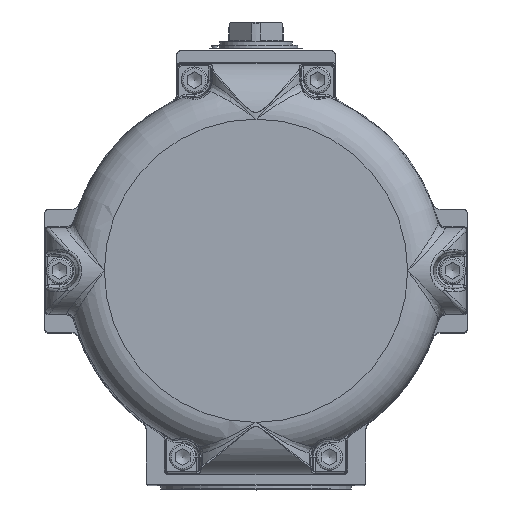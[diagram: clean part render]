
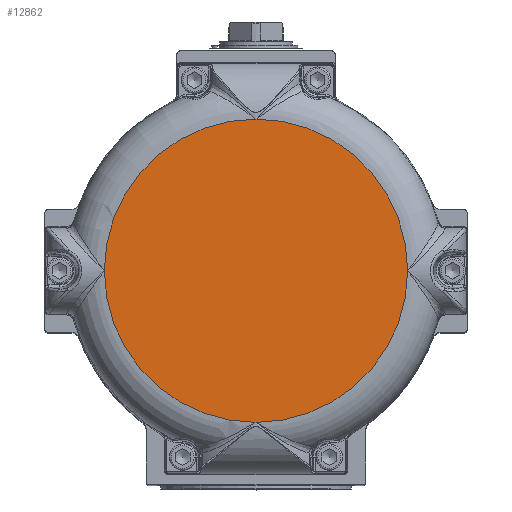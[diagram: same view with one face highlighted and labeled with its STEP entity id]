
A CAD part, top view. The second image highlights one B-rep face of the part: STEP entity #12862.
In plain terms, the highlighted planar face has unit normal (0, 0, 1).
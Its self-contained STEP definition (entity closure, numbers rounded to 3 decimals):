
#12665=CARTESIAN_POINT('',(0.,103.409,226.5));
#12666=VERTEX_POINT('',#12665);
#12689=CARTESIAN_POINT('',(103.409,0.,226.5));
#12690=VERTEX_POINT('',#12689);
#12691=CARTESIAN_POINT('',(0.,0.,226.5));
#12692=DIRECTION('',(0.0,0.0,1.0));
#12693=DIRECTION('',(-1.0,0.0,0.0));
#12694=AXIS2_PLACEMENT_3D('',#12691,#12692,#12693);
#12695=CIRCLE('',#12694,103.409);
#12696=EDGE_CURVE('',#12690,#12666,#12695,.T.);
#12829=CARTESIAN_POINT('',(-51.704,0.,226.5));
#12830=DIRECTION('',(0.0,0.0,1.0));
#12831=DIRECTION('',(0.0,-1.0,0.0));
#12832=AXIS2_PLACEMENT_3D('',#12829,#12830,#12831);
#12833=PLANE('',#12832);
#12834=ORIENTED_EDGE('',*,*,#12696,.T.);
#12835=CARTESIAN_POINT('',(-103.409,0.,226.5));
#12836=VERTEX_POINT('',#12835);
#12837=CARTESIAN_POINT('',(0.,0.,226.5));
#12838=DIRECTION('',(0.0,0.0,1.0));
#12839=DIRECTION('',(-1.0,0.0,0.0));
#12840=AXIS2_PLACEMENT_3D('',#12837,#12838,#12839);
#12841=CIRCLE('',#12840,103.409);
#12842=EDGE_CURVE('',#12666,#12836,#12841,.T.);
#12843=ORIENTED_EDGE('',*,*,#12842,.T.);
#12844=CARTESIAN_POINT('',(0.,-103.409,226.5));
#12845=VERTEX_POINT('',#12844);
#12846=CARTESIAN_POINT('',(0.,0.,226.5));
#12847=DIRECTION('',(0.0,0.0,1.0));
#12848=DIRECTION('',(-1.0,0.0,0.0));
#12849=AXIS2_PLACEMENT_3D('',#12846,#12847,#12848);
#12850=CIRCLE('',#12849,103.409);
#12851=EDGE_CURVE('',#12836,#12845,#12850,.T.);
#12852=ORIENTED_EDGE('',*,*,#12851,.T.);
#12853=CARTESIAN_POINT('',(0.,0.,226.5));
#12854=DIRECTION('',(0.0,0.0,1.0));
#12855=DIRECTION('',(-1.0,0.0,0.0));
#12856=AXIS2_PLACEMENT_3D('',#12853,#12854,#12855);
#12857=CIRCLE('',#12856,103.409);
#12858=EDGE_CURVE('',#12845,#12690,#12857,.T.);
#12859=ORIENTED_EDGE('',*,*,#12858,.T.);
#12860=EDGE_LOOP('',(#12834,#12843,#12852,#12859));
#12861=FACE_OUTER_BOUND('',#12860,.T.);
#12862=ADVANCED_FACE('',(#12861),#12833,.T.);
